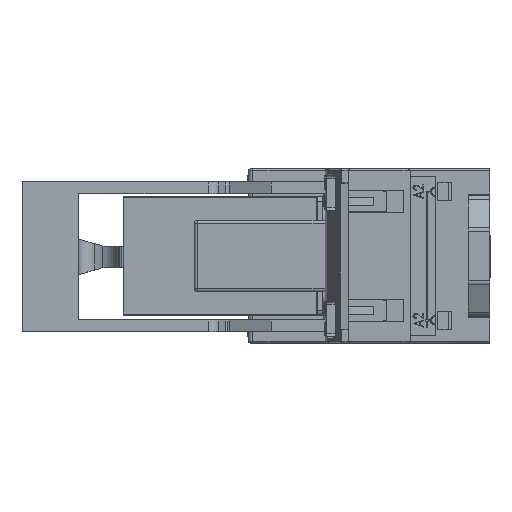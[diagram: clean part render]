
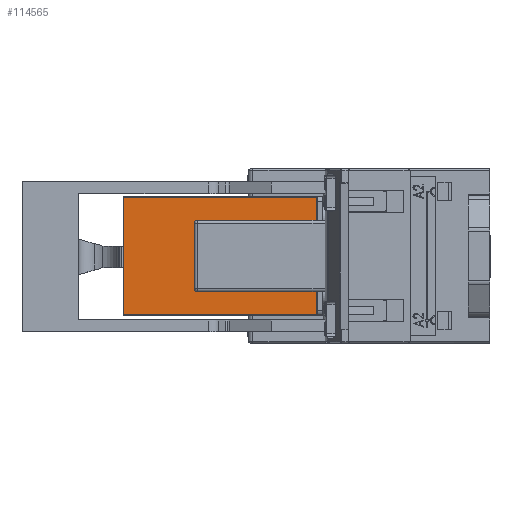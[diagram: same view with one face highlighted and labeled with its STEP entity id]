
A CAD part, left-side view. The second image highlights one B-rep face of the part: STEP entity #114565.
In plain terms, the highlighted planar face has unit normal (-1, 0, 0).
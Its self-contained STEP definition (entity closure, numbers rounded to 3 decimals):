
#5810 = VERTEX_POINT ( 'NONE', #84300 ) ;
#11441 = VERTEX_POINT ( 'NONE', #53823 ) ;
#21940 = VECTOR ( 'NONE', #221357, 1000. ) ;
#24994 = CARTESIAN_POINT ( 'NONE',  ( -13.2, 34.966, -10.351 ) ) ;
#27843 = LINE ( 'NONE', #188768, #40037 ) ;
#36793 = EDGE_CURVE ( 'NONE', #11441, #38286, #27843, .T. ) ;
#38286 = VERTEX_POINT ( 'NONE', #116157 ) ;
#38874 = DIRECTION ( 'NONE',  ( 0., 1., 0. ) ) ;
#40037 = VECTOR ( 'NONE', #47364, 1000. ) ;
#46874 = DIRECTION ( 'NONE',  ( 1., 0., 0. ) ) ;
#47364 = DIRECTION ( 'NONE',  ( 0., 0., 1. ) ) ;
#48204 = ORIENTED_EDGE ( 'NONE', *, *, #215776, .F. ) ;
#51877 = VERTEX_POINT ( 'NONE', #55837 ) ;
#53823 = CARTESIAN_POINT ( 'NONE',  ( -13.2, 0.966, -10.351 ) ) ;
#55088 = EDGE_LOOP ( 'NONE', ( #121267, #48204, #201321, #187411 ) ) ;
#55837 = CARTESIAN_POINT ( 'NONE',  ( -13.2, 34.966, -10.351 ) ) ;
#59419 = CARTESIAN_POINT ( 'NONE',  ( -13.2, 34.966, -10.551 ) ) ;
#67556 = AXIS2_PLACEMENT_3D ( 'NONE', #118175, #46874, #205593 ) ;
#72652 = EDGE_CURVE ( 'NONE', #11441, #51877, #93980, .T. ) ;
#84300 = CARTESIAN_POINT ( 'NONE',  ( -13.2, 34.966, 10.249 ) ) ;
#93980 = LINE ( 'NONE', #24994, #179397 ) ;
#112892 = EDGE_CURVE ( 'NONE', #5810, #38286, #169634, .T. ) ;
#113415 = DIRECTION ( 'NONE',  ( 0., 0., 1. ) ) ;
#114565 = ADVANCED_FACE ( 'NONE', ( #172224 ), #204436, .F. ) ;
#116157 = CARTESIAN_POINT ( 'NONE',  ( -13.2, 0.966, 10.249 ) ) ;
#118175 = CARTESIAN_POINT ( 'NONE',  ( -13.2, 34.966, 10.449 ) ) ;
#121267 = ORIENTED_EDGE ( 'NONE', *, *, #112892, .F. ) ;
#141788 = VECTOR ( 'NONE', #113415, 1000. ) ;
#151249 = CARTESIAN_POINT ( 'NONE',  ( -13.2, 34.966, 10.249 ) ) ;
#169634 = LINE ( 'NONE', #151249, #21940 ) ;
#172224 = FACE_OUTER_BOUND ( 'NONE', #55088, .T. ) ;
#179397 = VECTOR ( 'NONE', #38874, 1000. ) ;
#187411 = ORIENTED_EDGE ( 'NONE', *, *, #36793, .T. ) ;
#188768 = CARTESIAN_POINT ( 'NONE',  ( -13.2, 0.966, -10.551 ) ) ;
#199715 = LINE ( 'NONE', #59419, #141788 ) ;
#201321 = ORIENTED_EDGE ( 'NONE', *, *, #72652, .F. ) ;
#204436 = PLANE ( 'NONE',  #67556 ) ;
#205593 = DIRECTION ( 'NONE',  ( 0., 0., -1. ) ) ;
#215776 = EDGE_CURVE ( 'NONE', #51877, #5810, #199715, .T. ) ;
#221357 = DIRECTION ( 'NONE',  ( 0., -1., 0. ) ) ;
